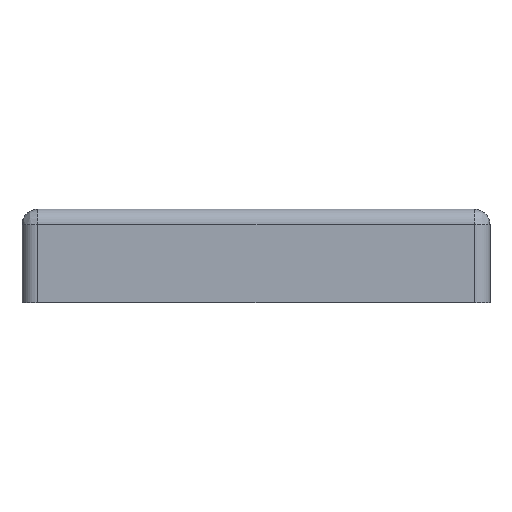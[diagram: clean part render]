
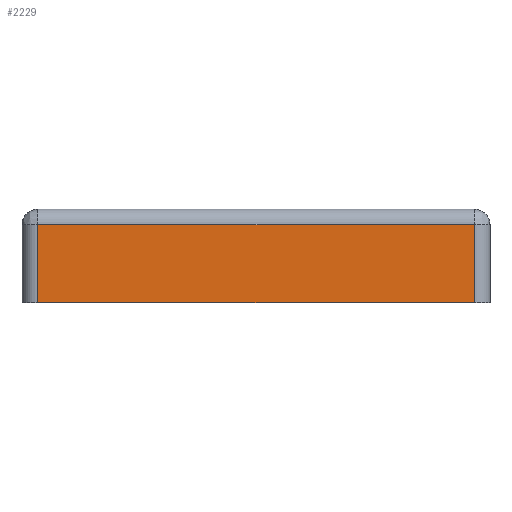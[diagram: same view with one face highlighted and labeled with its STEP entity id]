
A CAD part, front view. The second image highlights one B-rep face of the part: STEP entity #2229.
In plain terms, the highlighted planar face has unit normal (0, -1, 0).
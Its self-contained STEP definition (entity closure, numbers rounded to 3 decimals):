
#80 = CARTESIAN_POINT ( 'NONE',  ( 28., -30., -12. ) ) ;
#271 = CARTESIAN_POINT ( 'NONE',  ( -28., -30., -12. ) ) ;
#343 = LINE ( 'NONE', #916, #633 ) ;
#633 = VECTOR ( 'NONE', #980, 1000. ) ;
#657 = FACE_OUTER_BOUND ( 'NONE', #2377, .T. ) ;
#681 = ORIENTED_EDGE ( 'NONE', *, *, #3049, .F. ) ;
#728 = VERTEX_POINT ( 'NONE', #2583 ) ;
#916 = CARTESIAN_POINT ( 'NONE',  ( 28., -30., -12. ) ) ;
#980 = DIRECTION ( 'NONE',  ( 0., 0., -1. ) ) ;
#1083 = ORIENTED_EDGE ( 'NONE', *, *, #2748, .F. ) ;
#1095 = LINE ( 'NONE', #3287, #1812 ) ;
#1135 = CARTESIAN_POINT ( 'NONE',  ( 28., -30., -2. ) ) ;
#1155 = VECTOR ( 'NONE', #1991, 1000. ) ;
#1182 = CARTESIAN_POINT ( 'NONE',  ( -28., -30., -2. ) ) ;
#1530 = LINE ( 'NONE', #271, #4025 ) ;
#1657 = PLANE ( 'NONE',  #3753 ) ;
#1812 = VECTOR ( 'NONE', #3963, 1000. ) ;
#1991 = DIRECTION ( 'NONE',  ( 1., 0., 0. ) ) ;
#2132 = VERTEX_POINT ( 'NONE', #2288 ) ;
#2229 = ADVANCED_FACE ( 'NONE', ( #657 ), #1657, .F. ) ;
#2288 = CARTESIAN_POINT ( 'NONE',  ( 28., -30., -12. ) ) ;
#2377 = EDGE_LOOP ( 'NONE', ( #2839, #1083, #3511, #681 ) ) ;
#2538 = DIRECTION ( 'NONE',  ( 0., 0., 1. ) ) ;
#2583 = CARTESIAN_POINT ( 'NONE',  ( -28., -30., -12. ) ) ;
#2705 = LINE ( 'NONE', #1135, #1155 ) ;
#2748 = EDGE_CURVE ( 'NONE', #728, #3282, #1530, .T. ) ;
#2839 = ORIENTED_EDGE ( 'NONE', *, *, #3592, .F. ) ;
#2853 = VERTEX_POINT ( 'NONE', #3897 ) ;
#3049 = EDGE_CURVE ( 'NONE', #2853, #2132, #343, .T. ) ;
#3282 = VERTEX_POINT ( 'NONE', #1182 ) ;
#3287 = CARTESIAN_POINT ( 'NONE',  ( 28., -30., -12. ) ) ;
#3511 = ORIENTED_EDGE ( 'NONE', *, *, #3542, .F. ) ;
#3542 = EDGE_CURVE ( 'NONE', #2132, #728, #1095, .T. ) ;
#3549 = DIRECTION ( 'NONE',  ( 0., 0., 1. ) ) ;
#3592 = EDGE_CURVE ( 'NONE', #3282, #2853, #2705, .T. ) ;
#3753 = AXIS2_PLACEMENT_3D ( 'NONE', #80, #3907, #3549 ) ;
#3897 = CARTESIAN_POINT ( 'NONE',  ( 28., -30., -2. ) ) ;
#3907 = DIRECTION ( 'NONE',  ( 0., 1., 0. ) ) ;
#3963 = DIRECTION ( 'NONE',  ( -1., 0., 0. ) ) ;
#4025 = VECTOR ( 'NONE', #2538, 1000. ) ;
